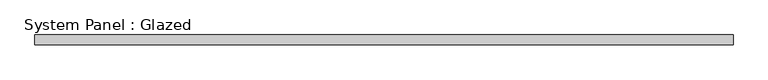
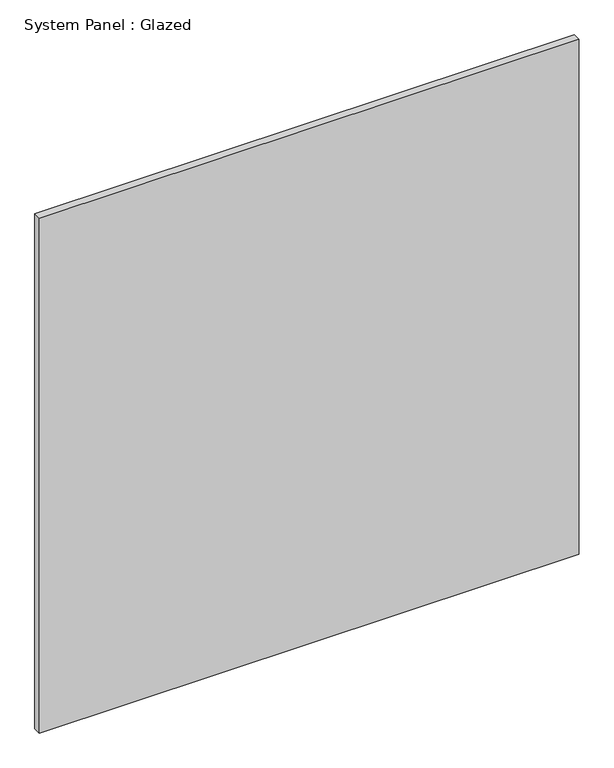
"""IFC4 building model written with IfcOpenShell, lengths in millimetres: plate geometry, System Panel : Glazed."""

from ifc_helpers import new_model, si_unit, origin, origin_with_axes, place, context, project, spatial, polyline, outline, extrude, source, transform, mapped, element, save


def system_panel_glazed_833e7854(model_context):
    return source(origin(), model_context, "Body", "SweptSolid", [
        extrude(outline(polyline([(907.033577, 19.05), (-907.033577, 19.05), (-907.033577, 44.45), (907.033577, 44.45), (907.033577, 19.05)])), origin_with_axes(), (0.0, 0.0, 1.0), 1828.8),
    ])


if __name__ == "__main__":
    model = new_model("IFC4")
    model_context = context("Model", 3, world=origin())
    ifc_project = project(units=[si_unit("LENGTHUNIT", "METRE", prefix="MILLI")], contexts=[model_context])
    site = spatial("IfcSite", under=ifc_project)
    building = spatial("IfcBuilding", under=site)
    placement = place(None, origin())
    system_panel_glazed_shape = system_panel_glazed_833e7854(model_context)
    element("IfcPlate", 1, ObjectType="System Panel : Glazed", at=placement, inside=building, context=model_context, shape_type="MappedRepresentation", body=[
        mapped(system_panel_glazed_shape, transform((0.0, 0.0, 0.0), x_axis=(1.0, 0.0, 0.0), y_axis=(0.0, 1.0, 0.0), z_axis=(0.0, 0.0, 1.0))),
    ])
    save(model, "model.ifc")
